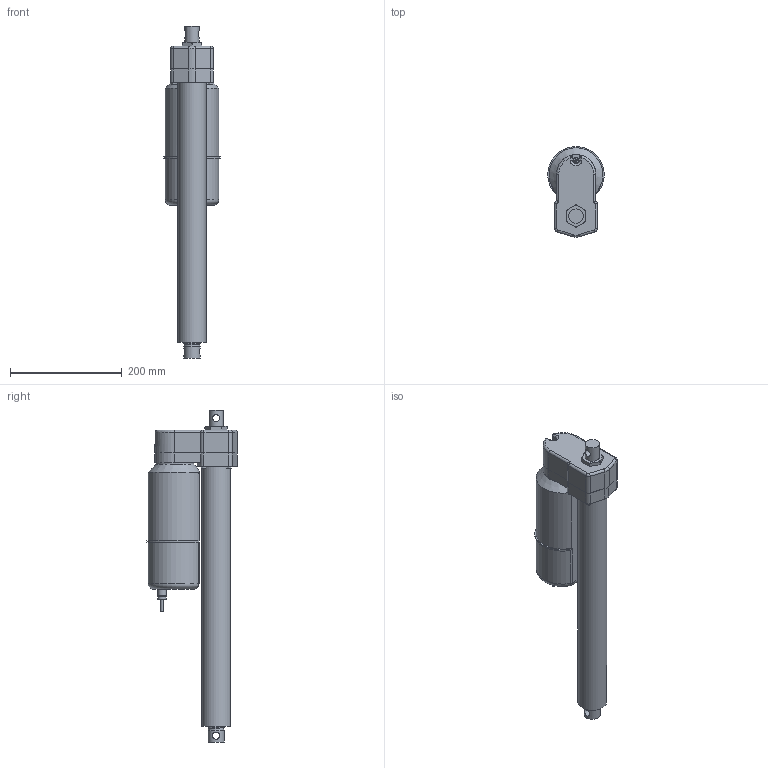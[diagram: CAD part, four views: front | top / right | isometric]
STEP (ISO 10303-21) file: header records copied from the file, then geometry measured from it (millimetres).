
FILE_DESCRIPTION (( 'STEP AP214' ), '1' );
FILE_NAME ('A22-05A5-14M0N-tollo.step', '2020-04-05T12:00:10', ( '' ), ( '' ), 'SwSTEP 2.0', 'SolidWorks 2010', '' );
FILE_SCHEMA (( 'AUTOMOTIVE_DESIGN' ));
Length unit declared in the file: millimetre
Products named in the file (7): Electrak-LA5-Motor-A22-05A5-14M0N-tollo_Electrak-LA5-Motor-A22-05A5-14M0N-tollo; Electrak-LA5-Rear-A22-05A5-14M0N-tollo_Electrak-LA5-Rear-A22-05A5-14M0N-tollo; Electrak-LA5-Tube-A22-05A5-14M0N-tollo_Electrak-LA5-Tube-A22-05A5-14M0N-tollo; Electrak-LA5-Rod-A22-05A5-14M0N-tollo_Electrak-LA5-Rod-A22-05A5-14M0N-tollo; Screw-MFX-H-M5-A22-05A5-14M0N-tollo_Screw-MFX-H-M5-A22-05A5-14M0N-tollo; Screw-M6S-M5-A22-05A5-14M0N-tollo_Screw-M6S-M5-A22-05A5-14M0N-tollo; A22-05A5-14M0N-tollo
Assembly tree (9 placements, depth 2):
  A22-05A5-14M0N-tollo
    Screw-MFX-H-M5-A22-05A5-14M0N-tollo_Screw-MFX-H-M5-A22-05A5-14M0N-tollo
    Screw-M6S-M5-A22-05A5-14M0N-tollo_Screw-M6S-M5-A22-05A5-14M0N-tollo  x4
    Electrak-LA5-Rear-A22-05A5-14M0N-tollo_Electrak-LA5-Rear-A22-05A5-14M0N-tollo
    Electrak-LA5-Motor-A22-05A5-14M0N-tollo_Electrak-LA5-Motor-A22-05A5-14M0N-tollo
    Electrak-LA5-Rod-A22-05A5-14M0N-tollo_Electrak-LA5-Rod-A22-05A5-14M0N-tollo
    Electrak-LA5-Tube-A22-05A5-14M0N-tollo_Electrak-LA5-Tube-A22-05A5-14M0N-tollo
Bounding box: 100.99 x 162.5 x 593 mm (x, y, z)
Volume: 3105549.4 mm3; surface area: 305134.1 mm2
Topology: 9 solids, 9 shells, 238 faces, 549 edges, 347 vertices
Faces by surface type: plane 95, cylinder 92, cone 31, torus 15, bspline 3, sphere 2
Full cylindrical faces by diameter (mm): 4 x1, 4.126 x5, 4.8 x2, 5 x13, 7.878 x4, 9.3 x1, 10 x1, 12.8 x2, 15 x2, 25.4 x1, 28.6 x4, 51.3 x1, 68 x1
Entity records: 5776 total; most frequent: CARTESIAN_POINT 1721, DIRECTION 806, ORIENTED_EDGE 666, AXIS2_PLACEMENT_3D 339, EDGE_CURVE 333, EDGE_LOOP 245, VERTEX_POINT 236, FACE_OUTER_BOUND 198
